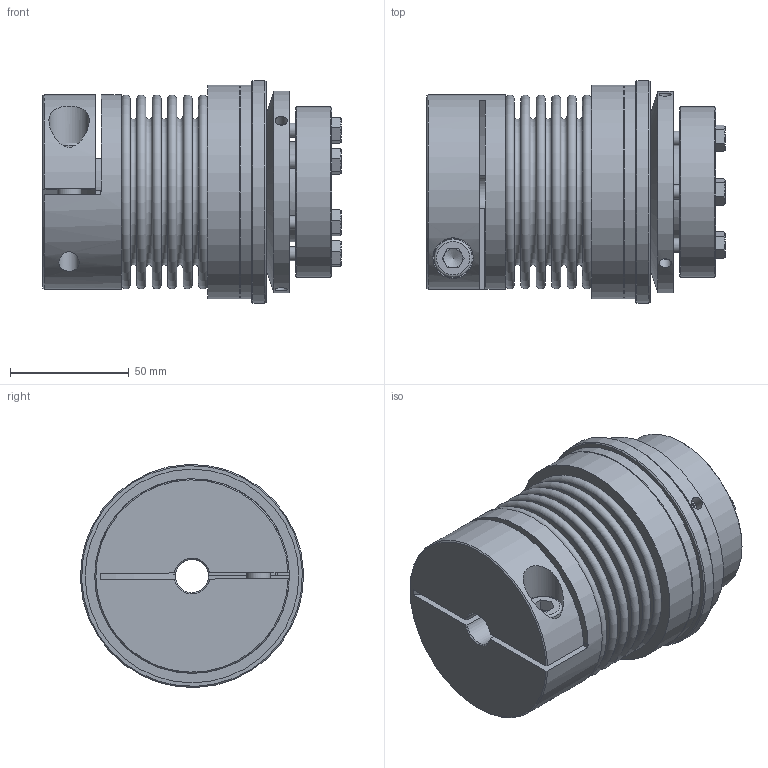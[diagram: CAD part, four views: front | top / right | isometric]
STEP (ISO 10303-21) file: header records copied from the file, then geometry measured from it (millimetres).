
FILE_DESCRIPTION( ( 'Unknown' ), '1' );
FILE_NAME( 'C:/Users/skarpstein/Desktop/Korrigierte 3D Modelle/KBK-B-KA/KBK-BKA-150-127.stp', 'Unknown', ( 'Unknown' ), ( 'Unknown' ), 'PSStep 16.0.42', 'Unknown', ' ' );
FILE_SCHEMA( ( 'AUTOMOTIVE_DESIGN { 1 0 10303 214 1 1 1 1 }' ) );
Length unit declared in the file: millimetre
Products named in the file (10): Assem1; Stellring 80; Druckring 80; Flansch BK150; BL80-150_Standard_3; KN80-150_Standard_6; Socket Head Cap Screw_DIN_DIN 912 M10 x 30 --- 30N_5; KBK L-A-80 Grundkörper_0; Druckring L-A-80_0; din_en_24017_m6x25
Assembly tree (14 placements, depth 2):
  Assem1
    Stellring 80
    Druckring 80
    Flansch BK150
    BL80-150_Standard_3
    KN80-150_Standard_6
    Socket Head Cap Screw_DIN_DIN 912 M10 x 30 --- 30N_5
    KBK L-A-80 Grundkörper_0
    Druckring L-A-80_0
    din_en_24017_m6x25  x6
Bounding box: 125.55 x 93.92 x 93.92 mm (x, y, z)
Volume: 425934.5 mm3; surface area: 176499.3 mm2
Topology: 14 solids, 14 shells, 338 faces, 704 edges, 454 vertices
Faces by surface type: plane 163, cone 79, cylinder 64, torus 32
Full cylindrical faces by diameter (mm): 3.242 x3, 4.917 x6, 5 x4, 5.2 x3, 6 x6, 6.6 x6, 8.5 x1, 8.8 x6, 10 x3, 14 x1, 16 x1, 17 x1, 19 x1, 37.5 x1, 40 x2, 42.29 x1, 48 x1, 52 x1, 62 x2, 70 x1, 70.7 x2, 71.9 x2, 72 x1, 82 x1, 85 x1, 87 x1, 90 x2, 94 x1
Entity records: 7991 total; most frequent: CARTESIAN_POINT 1483, DIRECTION 1011, ORIENTED_EDGE 674, AXIS2_PLACEMENT_3D 466, EDGE_LOOP 412, EDGE_CURVE 337, FACE_OUTER_BOUND 307, VERTEX_POINT 288
